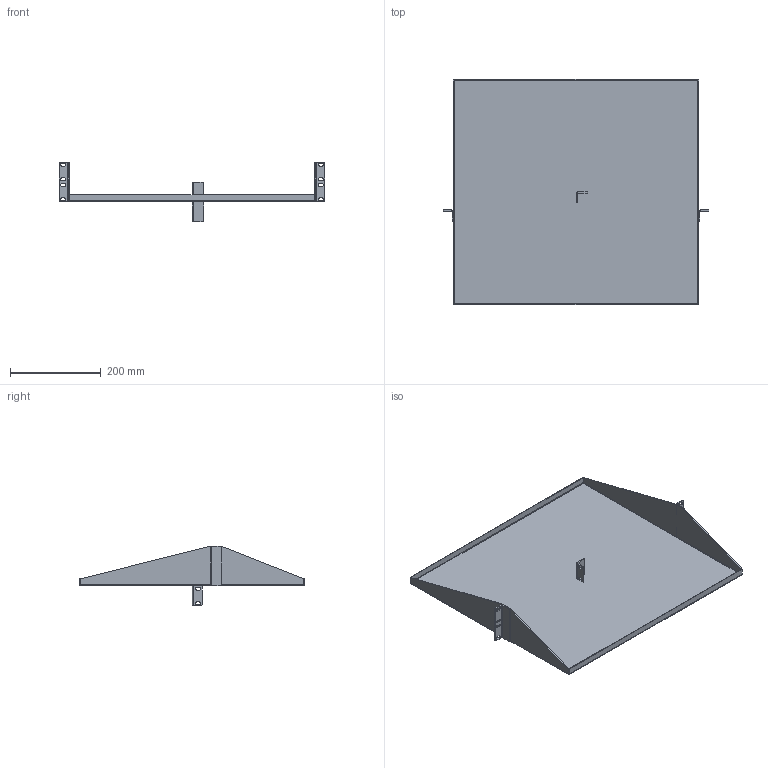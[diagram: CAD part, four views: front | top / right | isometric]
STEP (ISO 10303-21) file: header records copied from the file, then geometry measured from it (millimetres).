
FILE_DESCRIPTION( ( 'Unknown' ), '1' );
FILE_NAME( 'Q:/ACCESSORIES/SHELVES/DND/WEB DRAWINGS/STEP/DNDMS23.stp', 'Unknown', ( 'Unknown' ), ( 'Unknown' ), 'PSStep 10.1', 'Unknown', ' ' );
FILE_SCHEMA( ( 'AUTOMOTIVE_DESIGN { 1 0 10303 214 1 1 1 1 }' ) );
Length unit declared in the file: millimetre
Products named in the file (3): Assem1; COM50203; COM54166
Bounding box: 584.2 x 495.3 x 130.92 mm (x, y, z)
Volume: 989307.9 mm3; surface area: 1361432.4 mm2
Topology: 5 solids, 5 shells, 206 faces, 540 edges, 344 vertices
Faces by surface type: plane 116, cylinder 74, bspline 16
Entity records: 3950 total; most frequent: CARTESIAN_POINT 1080, ORIENTED_EDGE 456, DIRECTION 416, EDGE_CURVE 228, AXIS2_PLACEMENT_3D 144, VERTEX_POINT 144, LINE 128, VECTOR 128
